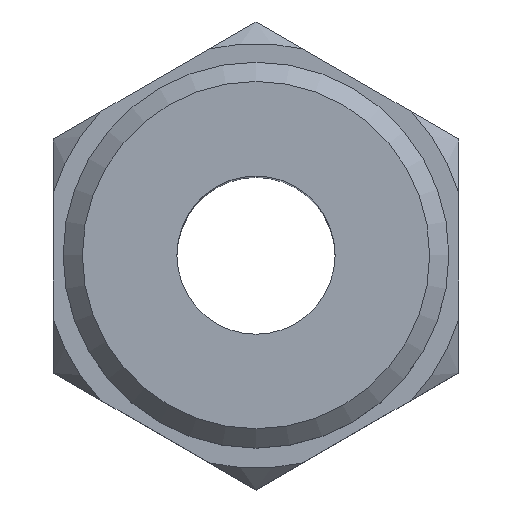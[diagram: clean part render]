
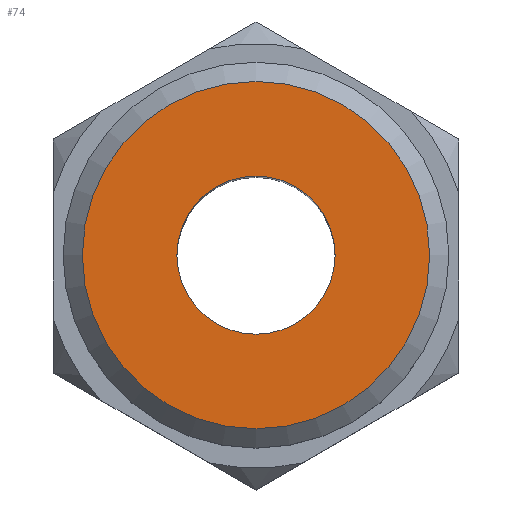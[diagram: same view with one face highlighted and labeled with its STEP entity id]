
A CAD part, top view. The second image highlights one B-rep face of the part: STEP entity #74.
In plain terms, the highlighted planar face has unit normal (0, 0, 1).
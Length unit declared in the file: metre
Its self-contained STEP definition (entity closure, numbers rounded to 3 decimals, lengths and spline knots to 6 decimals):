
#74=ADVANCED_FACE('',(#161,#162),#163,.T.);
#161=FACE_OUTER_BOUND('',#262,.T.);
#162=FACE_BOUND('',#263,.T.);
#163=PLANE('',#264);
#262=EDGE_LOOP('',(#426));
#263=EDGE_LOOP('',(#427));
#264=AXIS2_PLACEMENT_3D('',#428,#429,#430);
#426=ORIENTED_EDGE('',*,*,#613,.T.);
#427=ORIENTED_EDGE('',*,*,#615,.T.);
#428=CARTESIAN_POINT('',(-0.01,0.0,0.026));
#429=DIRECTION('',(0.0,0.0,1.0));
#430=DIRECTION('',(1.0,0.0,0.0));
#613=EDGE_CURVE('',#739,#739,#740,.T.);
#615=EDGE_CURVE('',#742,#742,#743,.T.);
#739=VERTEX_POINT('',#1072);
#740=CIRCLE('',#1073,0.009);
#742=VERTEX_POINT('',#1075);
#743=CIRCLE('',#1076,0.0041);
#1072=CARTESIAN_POINT('',(0.009,0.0,0.026));
#1073=AXIS2_PLACEMENT_3D('',#1210,#1211,#1212);
#1075=CARTESIAN_POINT('',(-0.0041,0.0,0.026));
#1076=AXIS2_PLACEMENT_3D('',#1213,#1214,#1215);
#1210=CARTESIAN_POINT('',(0.0,0.0,0.026));
#1211=DIRECTION('',(0.0,0.0,1.0));
#1212=DIRECTION('',(1.0,0.0,0.0));
#1213=CARTESIAN_POINT('',(0.0,0.0,0.026));
#1214=DIRECTION('',(0.0,0.0,-1.0));
#1215=DIRECTION('',(-1.0,0.0,0.0));
